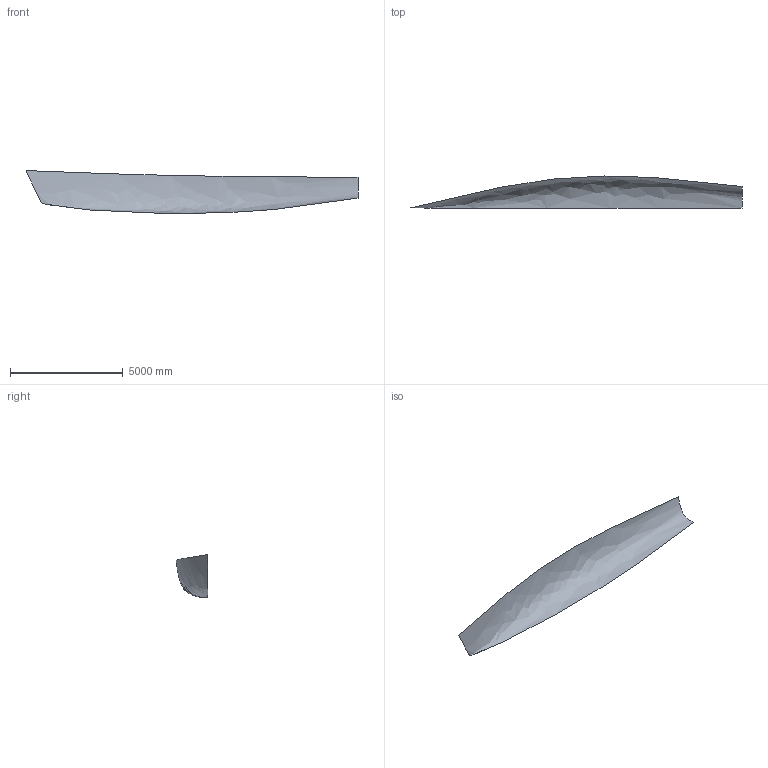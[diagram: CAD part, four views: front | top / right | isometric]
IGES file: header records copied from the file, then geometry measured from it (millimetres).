
Start section: DATA transfer to IGES file format           James R Teeters           17 Goodwin Street           Newport, RI 02840
Global section: file name: UssaM7.igs; author: Jim Teeters; organization: Newport RI; date: 951128.120000; units: metre
Bounding box: 14749.63 x 1421.15 x 1901.54 mm (x, y, z)
Surface area: 30735507.4 mm2 (no closed solid volume)
Topology: 0 solids, 0 shells, 1 faces, 4 edges, 4 vertices
Faces by surface type: bspline 1
